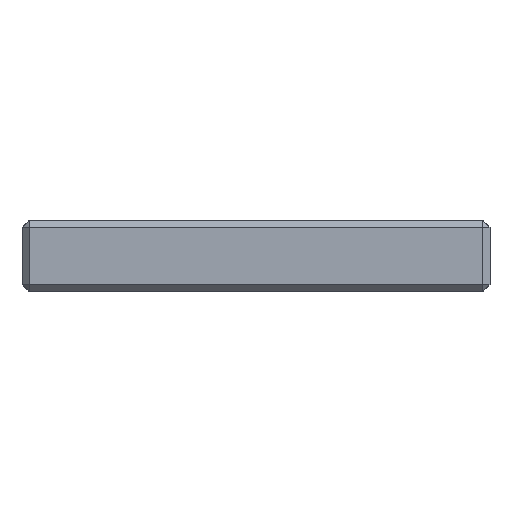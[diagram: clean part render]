
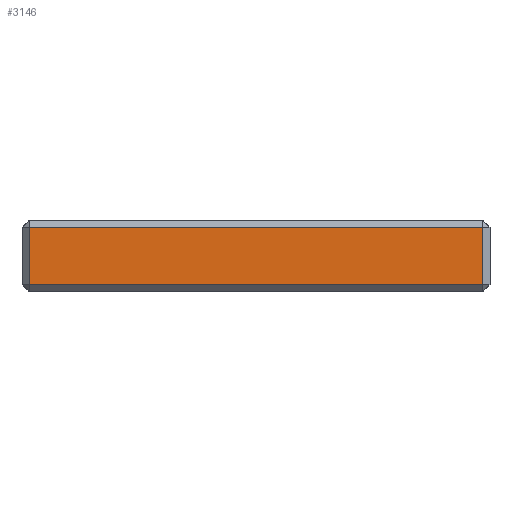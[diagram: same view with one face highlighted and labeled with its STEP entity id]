
A CAD part, front view. The second image highlights one B-rep face of the part: STEP entity #3146.
In plain terms, the highlighted planar face has unit normal (0, -1, 0).
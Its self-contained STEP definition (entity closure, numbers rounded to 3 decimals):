
#173=PLANE('',#3479);
#468=FACE_OUTER_BOUND('',#682,.T.);
#682=EDGE_LOOP('',(#2731,#2732,#2733,#2734));
#920=LINE('',#5769,#1150);
#926=LINE('',#5780,#1156);
#927=LINE('',#5782,#1157);
#928=LINE('',#5786,#1158);
#1150=VECTOR('',#4242,10.);
#1156=VECTOR('',#4254,10.);
#1157=VECTOR('',#4257,10.);
#1158=VECTOR('',#4264,10.);
#1609=VERTEX_POINT('',#5761);
#1610=VERTEX_POINT('',#5765);
#1611=VERTEX_POINT('',#5771);
#1612=VERTEX_POINT('',#5776);
#2002=EDGE_CURVE('',#1610,#1609,#920,.T.);
#2008=EDGE_CURVE('',#1611,#1612,#926,.T.);
#2009=EDGE_CURVE('',#1612,#1610,#927,.T.);
#2011=EDGE_CURVE('',#1609,#1611,#928,.T.);
#2731=ORIENTED_EDGE('',*,*,#2008,.F.);
#2732=ORIENTED_EDGE('',*,*,#2011,.F.);
#2733=ORIENTED_EDGE('',*,*,#2002,.F.);
#2734=ORIENTED_EDGE('',*,*,#2009,.F.);
#3146=ADVANCED_FACE('',(#468),#173,.T.);
#3479=AXIS2_PLACEMENT_3D('',#5789,#4269,#4270);
#4242=DIRECTION('',(1.,0.,0.));
#4254=DIRECTION('',(-1.,0.,0.));
#4257=DIRECTION('',(0.,0.,1.));
#4264=DIRECTION('',(0.,0.,-1.));
#4269=DIRECTION('center_axis',(0.,-1.,0.));
#4270=DIRECTION('ref_axis',(1.,0.,0.));
#5761=CARTESIAN_POINT('',(57.5,-78.8,9.));
#5765=CARTESIAN_POINT('',(-6.,-78.8,9.));
#5769=CARTESIAN_POINT('',(13.,-78.8,9.));
#5771=CARTESIAN_POINT('',(57.5,-78.8,1.));
#5776=CARTESIAN_POINT('',(-6.,-78.8,1.));
#5780=CARTESIAN_POINT('',(13.,-78.8,1.));
#5782=CARTESIAN_POINT('',(-6.,-78.8,2.5));
#5786=CARTESIAN_POINT('',(57.5,-78.8,2.5));
#5789=CARTESIAN_POINT('Origin',(-2.,-78.8,0.));
